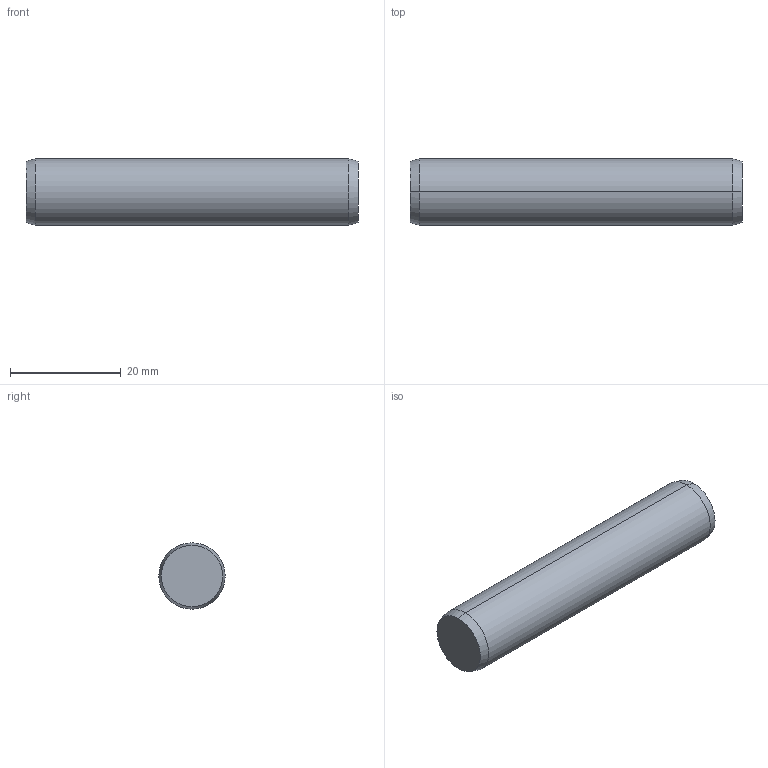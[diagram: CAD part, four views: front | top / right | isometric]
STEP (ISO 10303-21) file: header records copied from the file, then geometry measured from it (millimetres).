
FILE_DESCRIPTION (( 'STEP AP203' ), '1' );
FILE_NAME ('P1206.120-060.step', '2017-06-14T08:39:50', ( 'User' ), ( '' ), 'SwSTEP 2.0', 'SolidWorks 2009', '' );
FILE_SCHEMA (( 'CONFIG_CONTROL_DESIGN' ));
Length unit declared in the file: millimetre
Products named in the file (1): P1206.120-060
Bounding box: 60 x 12 x 12 mm (x, y, z)
Volume: 6757.4 mm3; surface area: 2454.6 mm2
Topology: 1 solids, 1 shells, 8 faces, 14 edges, 8 vertices
Faces by surface type: cone 4, cylinder 2, plane 2
Entity records: 271 total; most frequent: DIRECTION 40, CARTESIAN_POINT 31, ORIENTED_EDGE 28, AXIS2_PLACEMENT_3D 17, EDGE_CURVE 14, CIRCLE 8, FACE_OUTER_BOUND 8, PERSON_AND_ORGANIZATION 8
